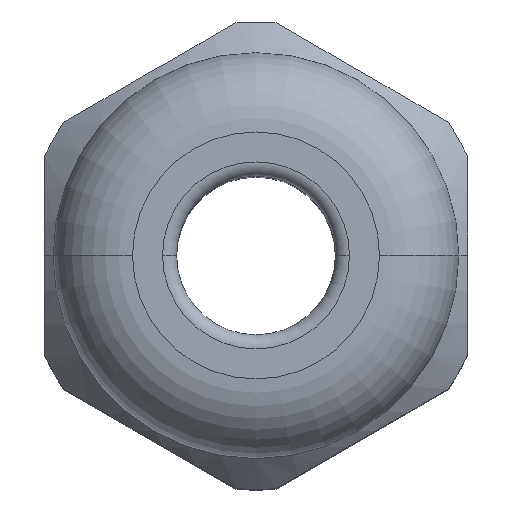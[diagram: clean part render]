
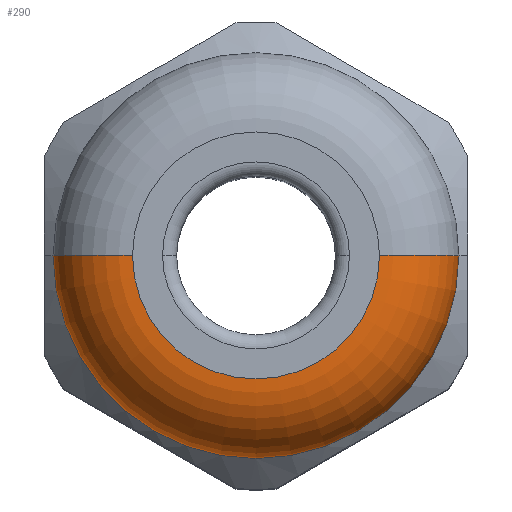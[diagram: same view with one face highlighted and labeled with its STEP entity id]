
A CAD part, top view. The second image highlights one B-rep face of the part: STEP entity #290.
In plain terms, the highlighted toroidal (fillet/blend) face has major radius 7 mm and minor radius 4.5 mm.
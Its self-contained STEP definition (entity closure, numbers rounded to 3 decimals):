
#131 = EDGE_CURVE ( 'NONE', #188, #132, #1282, .T. ) ;
#132 = VERTEX_POINT ( 'NONE', #1278 ) ;
#149 = VERTEX_POINT ( 'NONE', #1253 ) ;
#151 = EDGE_CURVE ( 'NONE', #187, #149, #1244, .T. ) ;
#187 = VERTEX_POINT ( 'NONE', #1472 ) ;
#188 = VERTEX_POINT ( 'NONE', #1471 ) ;
#283 = EDGE_CURVE ( 'NONE', #132, #149, #1618, .T. ) ;
#290 = ADVANCED_FACE ( 'NONE', ( #1580 ), #1578, .T. ) ;
#295 = EDGE_LOOP ( 'NONE', ( #296, #297, #420, #421 ) ) ;
#296 = ORIENTED_EDGE ( 'NONE', *, *, #131, .F. ) ;
#297 = ORIENTED_EDGE ( 'NONE', *, *, #298, .T. ) ;
#298 = EDGE_CURVE ( 'NONE', #188, #187, #1507, .T. ) ;
#420 = ORIENTED_EDGE ( 'NONE', *, *, #151, .T. ) ;
#421 = ORIENTED_EDGE ( 'NONE', *, *, #283, .F. ) ;
#1240 = DIRECTION ( 'NONE',  ( 0., 0., -1. ) ) ;
#1241 = DIRECTION ( 'NONE',  ( 0., -1., 0. ) ) ;
#1242 = CARTESIAN_POINT ( 'NONE',  ( -7., 0., 34.5 ) ) ;
#1243 = AXIS2_PLACEMENT_3D ( 'NONE', #1242, #1241, #1240 ) ;
#1244 = CIRCLE ( 'NONE', #1243, 4.5 ) ;
#1253 = CARTESIAN_POINT ( 'NONE',  ( -11.5, 0., 34.5 ) ) ;
#1278 = CARTESIAN_POINT ( 'NONE',  ( 11.5, 0., 34.5 ) ) ;
#1279 = DIRECTION ( 'NONE',  ( -1., 0., 0. ) ) ;
#1280 = DIRECTION ( 'NONE',  ( 0., 1., 0. ) ) ;
#1281 = AXIS2_PLACEMENT_3D ( 'NONE', #1288, #1280, #1279 ) ;
#1282 = CIRCLE ( 'NONE', #1281, 4.5 ) ;
#1288 = CARTESIAN_POINT ( 'NONE',  ( 7., 0., 34.5 ) ) ;
#1471 = CARTESIAN_POINT ( 'NONE',  ( 7., 0., 39. ) ) ;
#1472 = CARTESIAN_POINT ( 'NONE',  ( -7., 0., 39. ) ) ;
#1503 = DIRECTION ( 'NONE',  ( -1., 0., 0. ) ) ;
#1504 = DIRECTION ( 'NONE',  ( 0., 0., -1. ) ) ;
#1505 = CARTESIAN_POINT ( 'NONE',  ( 0., 0., 39. ) ) ;
#1506 = AXIS2_PLACEMENT_3D ( 'NONE', #1505, #1504, #1503 ) ;
#1507 = CIRCLE ( 'NONE', #1506, 7. ) ;
#1575 = DIRECTION ( 'NONE',  ( -1., 0., 0. ) ) ;
#1576 = DIRECTION ( 'NONE',  ( 0., 0., -1. ) ) ;
#1577 = AXIS2_PLACEMENT_3D ( 'NONE', #1579, #1576, #1575 ) ;
#1578 = TOROIDAL_SURFACE ( 'NONE', #1577, 7., 4.5 ) ;
#1579 = CARTESIAN_POINT ( 'NONE',  ( 0., 0., 34.5 ) ) ;
#1580 = FACE_OUTER_BOUND ( 'NONE', #295, .T. ) ;
#1614 = DIRECTION ( 'NONE',  ( -1., 0., 0. ) ) ;
#1615 = DIRECTION ( 'NONE',  ( 0., 0., -1. ) ) ;
#1616 = CARTESIAN_POINT ( 'NONE',  ( 0., 0., 34.5 ) ) ;
#1617 = AXIS2_PLACEMENT_3D ( 'NONE', #1616, #1615, #1614 ) ;
#1618 = CIRCLE ( 'NONE', #1617, 11.5 ) ;
